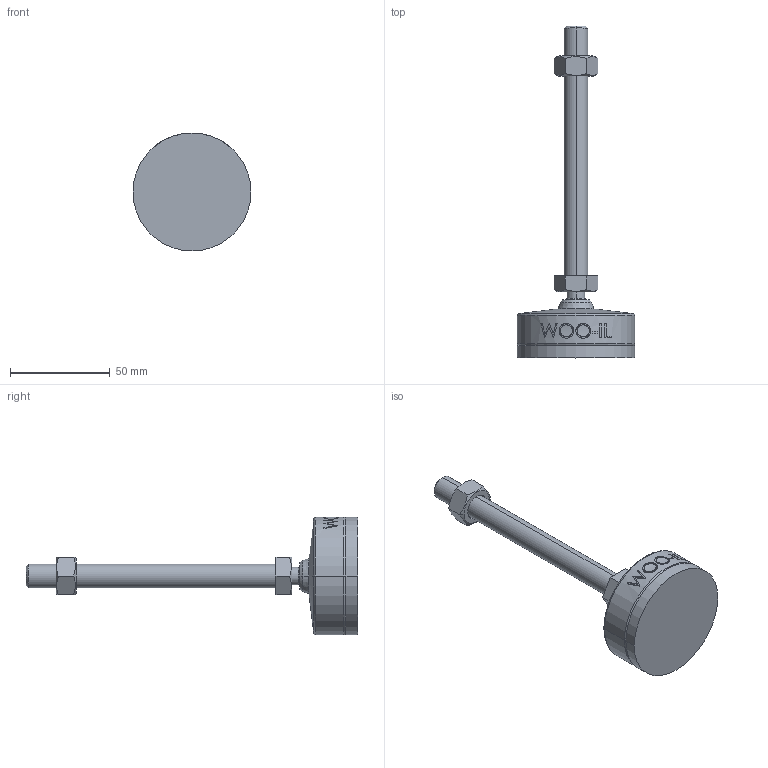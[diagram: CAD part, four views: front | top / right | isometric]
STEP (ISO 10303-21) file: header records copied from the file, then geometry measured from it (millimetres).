
FILE_DESCRIPTION (( 'STEP AP214' ), '1' );
FILE_NAME ('MFNR59-M12-125.step', '2021-02-22T09:06:01', ( '' ), ( '' ), 'SwSTEP 2.0', 'SolidWorks 2019', '' );
FILE_SCHEMA (( 'AUTOMOTIVE_DESIGN' ));
Length unit declared in the file: millimetre
Products named in the file (2): MFNR59-M12-125
Bounding box: 59 x 166 x 59 mm (x, y, z)
Volume: 83002 mm3; surface area: 17118.4 mm2
Topology: 2 solids, 2 shells, 105 faces, 245 edges, 156 vertices
Faces by surface type: plane 47, cone 18, cylinder 18, bspline 16, torus 4, sphere 2
Entity records: 4515 total; most frequent: CARTESIAN_POINT 2178, ORIENTED_EDGE 490, DIRECTION 437, EDGE_CURVE 245, AXIS2_PLACEMENT_3D 167, VERTEX_POINT 156, EDGE_LOOP 119, ADVANCED_FACE 105
